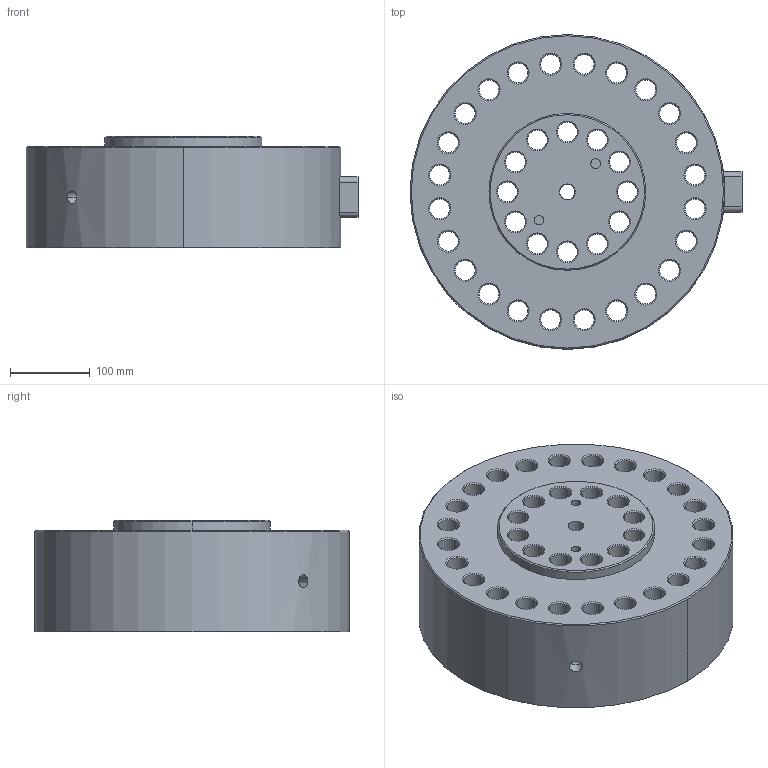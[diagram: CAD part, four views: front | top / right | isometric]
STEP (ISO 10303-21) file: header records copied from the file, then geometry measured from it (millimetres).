
FILE_DESCRIPTION (( 'STEP AP203' ), '1' );
FILE_NAME ('Interface 1268-330K.STEP', '2011-06-21T16:43:34', ( ' ' ), ( '' ), 'SwSTEP 2.0', 'SolidWorks 2002349', '' );
FILE_SCHEMA (( 'CONFIG_CONTROL_DESIGN' ));
Length unit declared in the file: inch
Products named in the file (1): Interface 1268-330K
Bounding box: 415.29 x 393.7 x 139.7 mm (x, y, z)
Volume: 13494891.4 mm3; surface area: 755818.5 mm2
Topology: 1 solids, 1 shells, 386 faces, 914 edges, 564 vertices
Faces by surface type: cylinder 160, cone 114, plane 85, bspline 27
Entity records: 12367 total; most frequent: CARTESIAN_POINT 3308, DIRECTION 1933, ORIENTED_EDGE 1820, EDGE_CURVE 910, AXIS2_PLACEMENT_3D 781, VERTEX_POINT 564, EDGE_LOOP 498, CIRCLE 421
